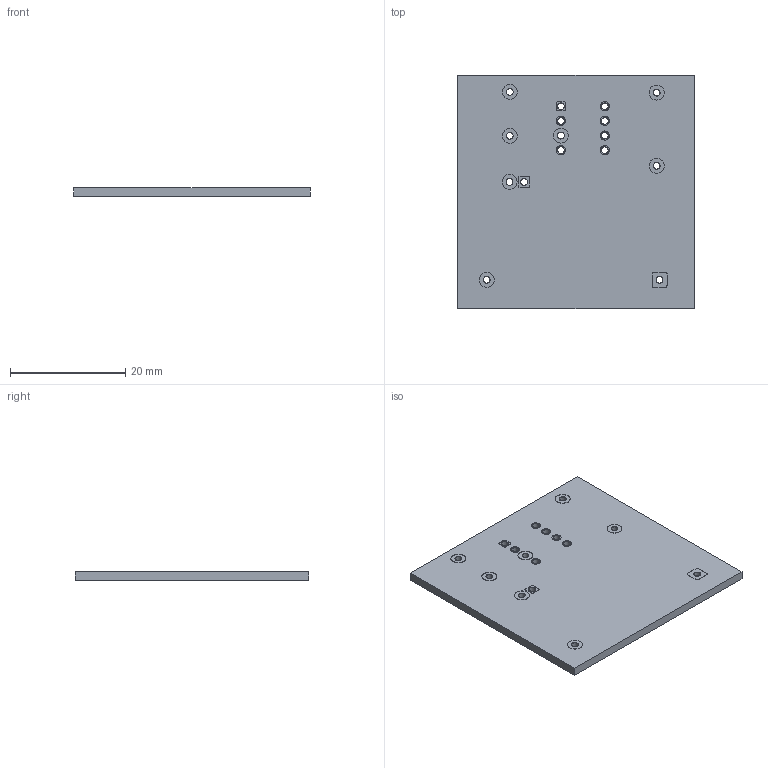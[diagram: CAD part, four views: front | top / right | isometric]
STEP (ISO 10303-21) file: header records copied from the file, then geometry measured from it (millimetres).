
FILE_DESCRIPTION(('KiCad electronic assembly'),'2;1');
FILE_NAME('shake_blink_3dprintlg.step','2026-03-18T01:24:53',('Pcbnew'), ('Kicad'),'Open CASCADE STEP processor 7.9','KiCad to STEP converter', 'Unknown');
FILE_SCHEMA(('AUTOMOTIVE_DESIGN { 1 0 10303 214 1 1 1 1 }'));
Length unit declared in the file: millimetre
Products named in the file (4): shake_blink_3dprintlg 1; shake_blink_3dprint_copper; shake_blink_3dprint_pad; shake_blink_3dprint_PCB
Assembly tree (3 placements, depth 2):
  shake_blink_3dprintlg 1
    shake_blink_3dprint_copper
    shake_blink_3dprint_pad
    shake_blink_3dprint_PCB
Bounding box: 41 x 40.5 x 1.59 mm (x, y, z)
Volume: 2494.2 mm3; surface area: 4483.4 mm2
Topology: 54 solids, 54 shells, 327 faces, 657 edges, 438 vertices
Faces by surface type: plane 172, cylinder 155
Full cylindrical faces by diameter (mm): 1.15 x48, 1.175 x10, 1.2 x32, 1.6 x12, 2.6 x14
Entity records: 9258 total; most frequent: DIRECTION 1629, CARTESIAN_POINT 1426, ORIENTED_EDGE 1314, EDGE_CURVE 657, AXIS2_PLACEMENT_3D 641, FACE_BOUND 475, EDGE_LOOP 475, VERTEX_POINT 438
